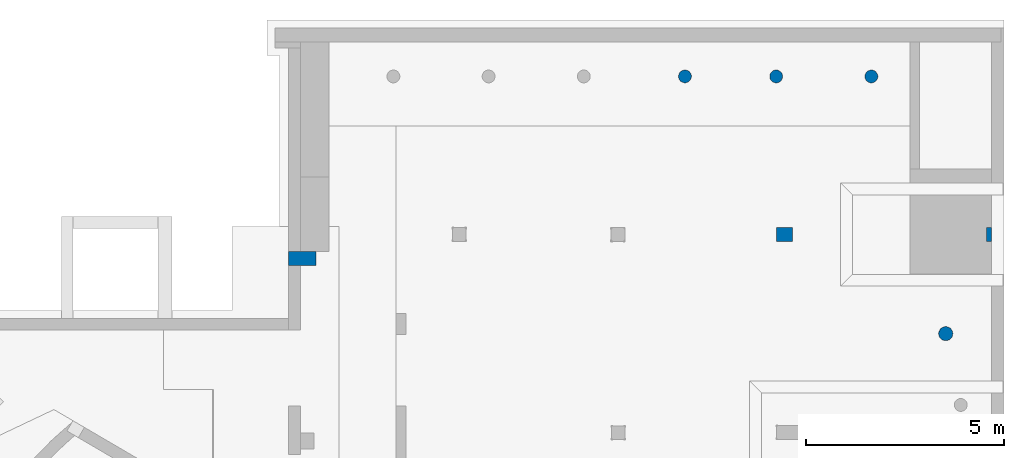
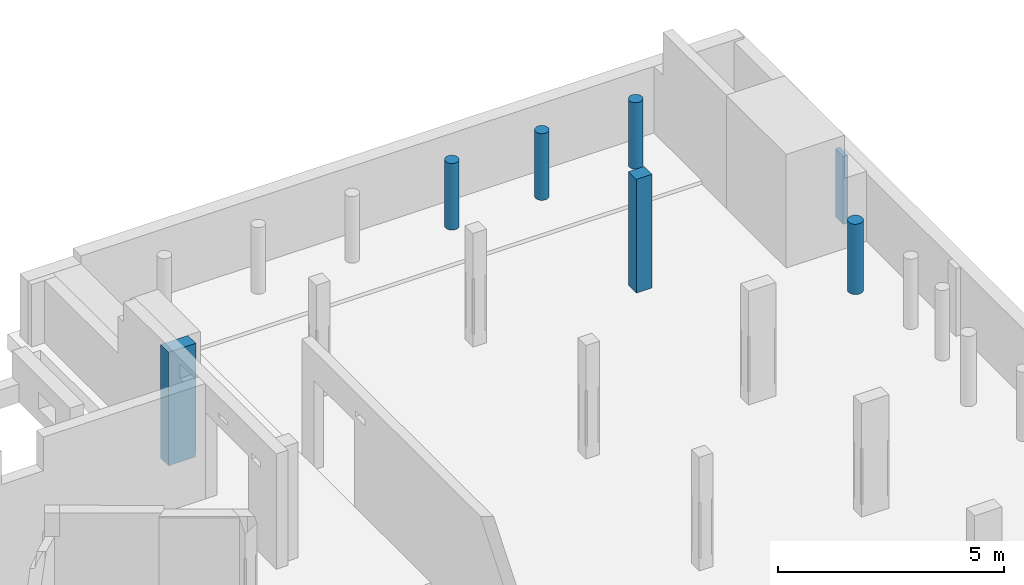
# One storey, part 21 of 42: 7 columns.
"""IFC2X3 building model written with IfcOpenShell, lengths in millimetres."""

from ifc_helpers import new_model, entity, si_unit, converted_unit, derived_unit, direction, frame, frame_2d, origin, origin_2d_with_axis, place, context, subcontext, project, spatial, rectangle, circle, hollow_circle, extrude, faceted_brep, source, transform, mapped, material, material_list, type_object, type_shapes, element, save


model = new_model("IFC2X3")

# Units and contexts
model_context = context("Model", 3, precision=0.01, world=origin(), true_north=direction((6.12303176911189e-17, 1.0)))
body_context = subcontext(model_context, "Body", "Model", "MODEL_VIEW")
ifc_project = project(units=[si_unit("LENGTHUNIT", "METRE", prefix="MILLI"), si_unit("AREAUNIT", "SQUARE_METRE", prefix="MILLI"), si_unit("VOLUMEUNIT", "CUBIC_METRE"), converted_unit("PLANEANGLEUNIT", "DEGREE", entity("IfcRatioMeasure", 0.0174532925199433), si_unit("PLANEANGLEUNIT", "RADIAN"), dimensions=[0, 0, 0, 0, 0, 0, 0]), si_unit("MASSUNIT", "GRAM", prefix="KILO"), derived_unit("MASSDENSITYUNIT", [(si_unit("MASSUNIT", "GRAM", prefix="KILO"), 1), (si_unit("LENGTHUNIT", "METRE"), -3)]), derived_unit("MOMENTOFINERTIAUNIT", [(si_unit("LENGTHUNIT", "METRE"), 4)]), si_unit("TIMEUNIT", "SECOND"), si_unit("FREQUENCYUNIT", "HERTZ"), si_unit("THERMODYNAMICTEMPERATUREUNIT", "DEGREE_CELSIUS"), derived_unit("THERMALTRANSMITTANCEUNIT", [(si_unit("MASSUNIT", "GRAM", prefix="KILO"), 1), (si_unit("THERMODYNAMICTEMPERATUREUNIT", "KELVIN"), -1), (si_unit("TIMEUNIT", "SECOND"), -3)]), derived_unit("VOLUMETRICFLOWRATEUNIT", [(si_unit("LENGTHUNIT", "METRE"), 3), (si_unit("TIMEUNIT", "SECOND"), -1)]), si_unit("ELECTRICCURRENTUNIT", "AMPERE"), si_unit("ELECTRICVOLTAGEUNIT", "VOLT"), si_unit("POWERUNIT", "WATT"), si_unit("FORCEUNIT", "NEWTON", prefix="KILO"), si_unit("ILLUMINANCEUNIT", "LUX"), si_unit("LUMINOUSFLUXUNIT", "LUMEN"), si_unit("LUMINOUSINTENSITYUNIT", "CANDELA"), derived_unit("USERDEFINED", [(si_unit("MASSUNIT", "GRAM", prefix="KILO"), -1), (si_unit("LENGTHUNIT", "METRE"), -2), (si_unit("TIMEUNIT", "SECOND"), 3), (si_unit("LUMINOUSFLUXUNIT", "LUMEN"), 1)]), derived_unit("LINEARVELOCITYUNIT", [(si_unit("LENGTHUNIT", "METRE"), 1), (si_unit("TIMEUNIT", "SECOND"), -1)]), si_unit("PRESSUREUNIT", "PASCAL"), derived_unit("USERDEFINED", [(si_unit("LENGTHUNIT", "METRE"), -2), (si_unit("MASSUNIT", "GRAM", prefix="KILO"), 1), (si_unit("TIMEUNIT", "SECOND"), -2)]), derived_unit("LINEARFORCEUNIT", [(si_unit("MASSUNIT", "GRAM", prefix="KILO"), 1), (si_unit("LENGTHUNIT", "METRE"), 1), (si_unit("TIMEUNIT", "SECOND"), -2), (si_unit("LENGTHUNIT", "METRE"), -1)]), derived_unit("PLANARFORCEUNIT", [(si_unit("MASSUNIT", "GRAM", prefix="KILO"), 1), (si_unit("LENGTHUNIT", "METRE"), 1), (si_unit("TIMEUNIT", "SECOND"), -2), (si_unit("LENGTHUNIT", "METRE"), -2)])], contexts=[model_context])

# Site, building, storey
site_placement = place(None, origin())
site = spatial("IfcSite", under=ifc_project, at=site_placement, Name="Theater aan de Parade", CompositionType="ELEMENT")
building_placement = place(site_placement, origin())
building = spatial("IfcBuilding", under=site, at=building_placement, Name="Theater aan de Parade", CompositionType="ELEMENT")
storey_placement = place(building_placement, frame((0.0, 0.0, -3300.0)))
storey = spatial("IfcBuildingStorey", under=building, at=storey_placement, Name="-1 kelder", CompositionType="ELEMENT", Elevation=-3300.0)

# Columns
ifc_material_1 = material(Name="00_PBT_MAT_beton t.p.g.")
column_type_1 = type_object("IfcColumnType", Name="16_PBT_SC_beton_rechthoekig:700x350_bestaand", PredefinedType="COLUMN", material=ifc_material_1)
shared_shape_1 = source(origin(), body_context, "Body", "Brep", [
    faceted_brep([(0.0, 0.0, 0.0), (0.0, 350.0, 0.0), (697.0, 350.0, 0.0), (697.0, 0.0, 0.0), (300.0, 0.0, 0.0), (0.0, 0.0, 3070.0), (0.0, 350.0, 3070.0), (700.0, 350.0, 300.0), (700.0, 350.0, 250.0), (700.0, 350.0, 100.0), (697.0, 350.0, 100.0), (700.0, 350.0, 3070.0), (700.0, 350.0, 2600.0), (700.0, 0.0, 3070.0), (700.0, 0.0, 2600.0), (700.0, 0.0, 300.0), (700.0, 0.0, 250.0), (700.0, 0.0, 100.0), (697.0, 0.0, 100.0), (697.0, 350.001806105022, 100.0)], [[[0, 1, 2, 3, 4]], [[1, 0, 5, 6]], [[7, 8, 9, 10, 2, 1, 6, 11, 12]], [[8, 7, 12, 11, 13, 14, 15, 16, 17, 9]], [[16, 15, 14, 13, 5, 0, 4, 3, 18, 17]], [[11, 6, 5, 13]], [[18, 10, 9, 17]], [[19, 18, 3, 2]]]),
])
type_shapes(column_type_1, [shared_shape_1])
column_1_placement = place(storey_placement, frame((70640.0, 44185.0, 660.0)))
element("IfcColumn", 1, at=column_1_placement, inside=storey, type_object=column_type_1, material=ifc_material_1, Name="16_PBT_SC_beton_rechthoekig:700x350_bestaand", ObjectType="16_PBT_SC_beton_rechthoekig:700x350_bestaand", context=body_context, shape_type="MappedRepresentation", body=[
    mapped(shared_shape_1, transform((0.0, 0.0, 0.0), scale=1.0)),
])
column_type_2 = type_object("IfcColumnType", Name="16_PBT_SC_beton_rechthoekig:350x350_bestaand", PredefinedType="COLUMN", material=ifc_material_1)
shared_shape_2 = source(origin(), body_context, "Body", "SweptSolid", [
    extrude(rectangle(XDim=350.000000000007, YDim=120.000000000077, at=origin_2d_with_axis()), frame((88300.0, 44960.0, -2640.0), z_axis=(0.0, 0.0, 1.0), x_axis=(0.0, -1.0, 0.0)), (0.0, 0.0, 1.0), 1840.0),
])
type_shapes(column_type_2, [shared_shape_2])
column_2_placement = place(storey_placement, frame((0.0, 0.0, 3300.0)))
element("IfcColumn", 2, at=column_2_placement, inside=storey, type_object=column_type_2, material=ifc_material_1, Name="16_PBT_SC_beton_rechthoekig:350x350_bestaand", ObjectType="16_PBT_SC_beton_rechthoekig:350x350_bestaand", context=body_context, shape_type="MappedRepresentation", body=[
    mapped(shared_shape_2, transform((0.0, 0.0, 0.0), scale=1.0)),
])
column_type_3 = type_object("IfcColumnType", Name="28_PBT_SC_beton_rechthoekig:700x350_bestaand", PredefinedType="COLUMN", material=ifc_material_1)
shared_shape_3 = source(origin(), body_context, "Body", "SweptSolid", [
    extrude(rectangle(XDim=350.000000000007, YDim=399.999999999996, at=frame_2d((0.0, -8.66862137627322e-12), x_axis=(1.0, 0.0))), frame((83150.0, 44960.0, -2640.0), z_axis=(0.0, 0.0, 1.0), x_axis=(0.0, -1.0, 0.0)), (0.0, 0.0, 1.0), 3070.00000000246),
])
type_shapes(column_type_3, [shared_shape_3])
column_3_placement = place(storey_placement, frame((0.0, 0.0, 3300.0)))
element("IfcColumn", 3, at=column_3_placement, inside=storey, type_object=column_type_3, material=ifc_material_1, Name="28_PBT_SC_beton_rechthoekig:700x350_bestaand", ObjectType="28_PBT_SC_beton_rechthoekig:700x350_bestaand", context=body_context, shape_type="MappedRepresentation", body=[
    mapped(shared_shape_3, transform((0.0, 0.0, 0.0), scale=1.0)),
])
ifc_material_2 = material(Name="00_PBT_MAT_staal_S355")
ifc_material_3 = material(Name="00_PBT_MAT_beton t.p.g._C40/50")
ifc_material_list_1 = material_list([ifc_material_2, ifc_material_3])
ifc_material_list_2 = material_list([ifc_material_2, ifc_material_3])
column_type_4 = type_object("IfcColumnType", Name="28_PBT_SC_staal_buis:S355_B355.6x10_GB_C40/50", PredefinedType="COLUMN", material=ifc_material_list_2)
shared_shape_4 = source(origin(), body_context, "Body", "SweptSolid", [
    extrude(hollow_circle(Radius=177.8, WallThickness=10.0, at=frame_2d((1.77837538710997e-15, -3.26747168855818e-13), x_axis=(1.0, 0.0))), frame((0.0, 0.0, -2640.0), z_axis=(0.0, 0.0, 1.0), x_axis=(-1.0, 0.0, 0.0)), (0.0, 0.0, 1.0), 1900.00000000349),
    extrude(circle(Radius=167.8, at=frame_2d((-6.17986865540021e-15, 1.42612000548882e-12), x_axis=(1.0, 0.0))), frame((0.0, 0.0, -2640.0)), (0.0, 0.0, 1.0), 1900.00000000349),
])
type_shapes(column_type_4, [shared_shape_4])
column_4_placement = place(storey_placement, frame((87211.0, 42462.4999999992, 3300.0)))
element("IfcColumn", 4, at=column_4_placement, inside=storey, type_object=column_type_4, material=ifc_material_list_1, Name="28_PBT_SC_staal_buis:S355_B355.6x10_GB_C40/50", ObjectType="28_PBT_SC_staal_buis:S355_B355.6x10_GB_C40/50", context=body_context, shape_type="MappedRepresentation", body=[
    mapped(shared_shape_4, transform((0.0, 0.0, 0.0), scale=1.0)),
])
ifc_material_list_3 = material_list([ifc_material_2, ifc_material_3])
ifc_material_list_4 = material_list([ifc_material_2, ifc_material_3])
column_type_5 = type_object("IfcColumnType", Name="28_PBT_SC_staal_buis:S355_B323.9x10_GB_C40/50", PredefinedType="COLUMN", material=ifc_material_list_4)
shared_shape_5 = source(origin(), body_context, "Body", "SweptSolid", [
    extrude(hollow_circle(Radius=161.95, WallThickness=9.99999999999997, at=frame_2d((1.77837538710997e-15, -2.97621380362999e-13), x_axis=(1.0, 0.0))), frame((0.0, 0.0, -2540.0), z_axis=(0.0, 0.0, 1.0), x_axis=(-1.0, 0.0, 0.0)), (0.0, 0.0, 1.0), 1800.00000000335),
    extrude(circle(Radius=151.95, at=frame_2d((-6.17986865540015e-15, 1.29141200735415e-12), x_axis=(1.0, 0.0))), frame((0.0, 0.0, -2540.0)), (0.0, 0.0, 1.0), 1800.00000000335),
])
type_shapes(column_type_5, [shared_shape_5])
column_5_placement = place(storey_placement, frame((85336.8107076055, 48947.0, 3300.0)))
element("IfcColumn", 5, at=column_5_placement, inside=storey, type_object=column_type_5, material=ifc_material_list_3, Name="28_PBT_SC_staal_buis:S355_B323.9x10_GB_C40/50", ObjectType="28_PBT_SC_staal_buis:S355_B323.9x10_GB_C40/50", context=body_context, shape_type="MappedRepresentation", body=[
    mapped(shared_shape_5, transform((0.0, 0.0, 0.0), scale=1.0)),
])
ifc_material_list_5 = material_list([ifc_material_2, ifc_material_3])
column_6_placement = place(storey_placement, frame((82936.8107076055, 48947.0, 3300.0)))
element("IfcColumn", 6, at=column_6_placement, inside=storey, type_object=column_type_5, material=ifc_material_list_5, Name="28_PBT_SC_staal_buis:S355_B323.9x10_GB_C40/50", ObjectType="28_PBT_SC_staal_buis:S355_B323.9x10_GB_C40/50", context=body_context, shape_type="MappedRepresentation", body=[
    mapped(shared_shape_5, transform((0.0, 0.0, 0.0), scale=1.0)),
])
ifc_material_list_6 = material_list([ifc_material_2, ifc_material_3])
column_7_placement = place(storey_placement, frame((80636.8107076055, 48947.0, 3300.0)))
element("IfcColumn", 7, at=column_7_placement, inside=storey, type_object=column_type_5, material=ifc_material_list_6, Name="28_PBT_SC_staal_buis:S355_B323.9x10_GB_C40/50", ObjectType="28_PBT_SC_staal_buis:S355_B323.9x10_GB_C40/50", context=body_context, shape_type="MappedRepresentation", body=[
    mapped(shared_shape_5, transform((0.0, 0.0, 0.0), scale=1.0)),
])

save(model, "model.ifc")
